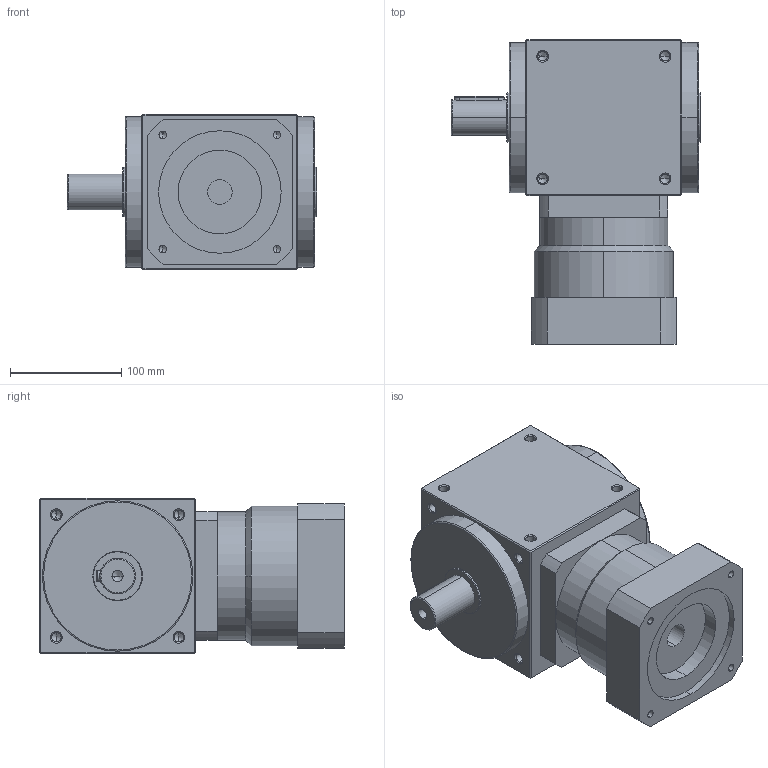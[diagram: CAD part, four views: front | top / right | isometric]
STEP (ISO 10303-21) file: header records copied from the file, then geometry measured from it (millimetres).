
FILE_DESCRIPTION (( 'STEP AP214' ), '1' );
FILE_NAME ('AT140-FL-L1 22-110-145-M8.STEP', '2020-11-17T09:59:29', ( '微软用户' ), ( '微软中国' ), 'SwSTEP 2.0', 'SolidWorks 2014', '' );
FILE_SCHEMA (( 'AUTOMOTIVE_DESIGN' ));
Length unit declared in the file: millimetre
Products named in the file (2): AT140-FL-L1 22-110-145-M8
Bounding box: 224 x 273.5 x 140 mm (x, y, z)
Volume: 4840394 mm3; surface area: 222593.6 mm2
Topology: 1 solids, 1 shells, 277 faces, 692 edges, 379 vertices
Faces by surface type: cylinder 120, cone 98, plane 53, torus 6
Entity records: 10934 total; most frequent: CARTESIAN_POINT 1706, DIRECTION 1310, ORIENTED_EDGE 1284, EDGE_CURVE 642, AXIS2_PLACEMENT_3D 503, VERTEX_POINT 379, EDGE_LOOP 313, VECTOR 304
